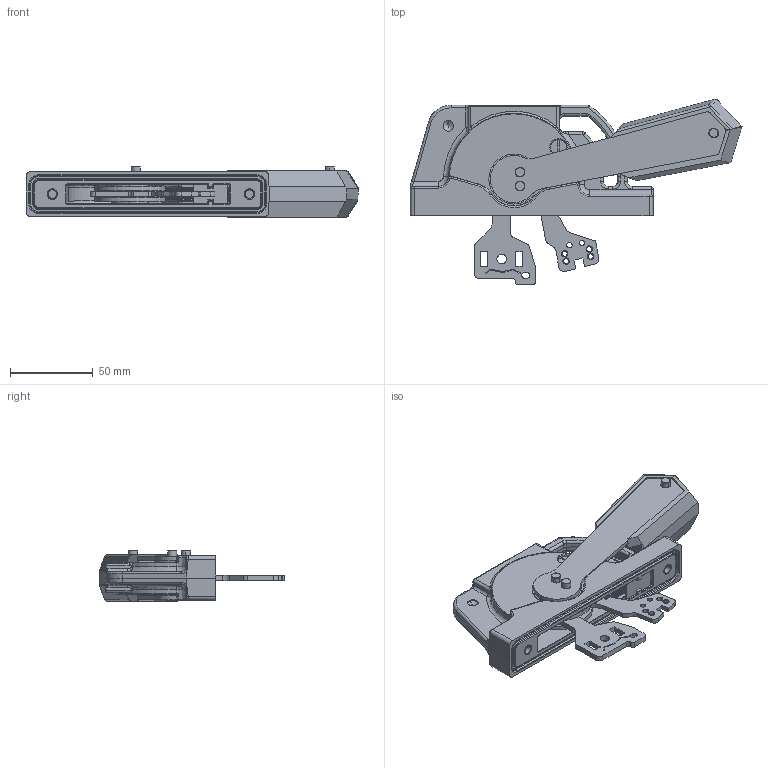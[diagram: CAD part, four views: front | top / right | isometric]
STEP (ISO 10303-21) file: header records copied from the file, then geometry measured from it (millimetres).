
FILE_DESCRIPTION((''),'2;1');
FILE_NAME('10007848185_ASM','2024-08-06T14:36:37',('LEQuenti'),('Rockwell Automation'),'CREO PARAMETRIC BY PTC INC, 2022424','CREO PARAMETRIC BY PTC INC, 2022424','');
FILE_SCHEMA(('AUTOMOTIVE_DESIGN { 1 0 10303 214 1 1 1 1 }'));
Length unit declared in the file: inch
Products named in the file (22): 40394-4039402902-PRT; 40394-4039403301; 10005741161; 40394-4039402303; 40394-4039409503; B-36118; M-7196; 40392-083; 40392-301-60_ASM; 40394-027; F-14733; 40394-4039433951_ASM; 40394-031; 40394-4039403701; 40394-4039403702; 40026-4002606402; 40394-4039402202; 10007694170; F-19998; 28319-2831990501; 40011-281; 10007848185_ASM
Assembly tree (33 placements, depth 3):
  10007848185_ASM
    40394-4039402902-PRT
    40394-4039403301  x2
    10005741161  x2
    40392-301-60_ASM
      40394-4039402303  x2
      40394-4039409503  x2
      B-36118
      M-7196  x2
      40392-083
    40394-4039433951_ASM
      40394-027
      F-14733  x2
    40394-031
    40394-4039403701
    40394-4039403702
    40026-4002606402
    40394-4039402202
    10007694170  x3
    F-19998  x4
    28319-2831990501  x2
    40011-281
Bounding box: 200.47 x 112.15 x 30.45 mm (x, y, z)
Volume: 181092.8 mm3; surface area: 97256.3 mm2
Topology: 38 solids, 44 shells, 1760 faces, 4438 edges, 2812 vertices
Faces by surface type: plane 876, cylinder 539, bspline 168, torus 113, cone 52, sphere 12
Entity records: 77005 total; most frequent: CARTESIAN_POINT 25021, ORIENTED_EDGE 8074, DIRECTION 7642, PRESENTATION_STYLE_ASSIGNMENT 4104, STYLED_ITEM 4081, CURVE_STYLE 4049, EDGE_CURVE 4049, VECTOR 2604
